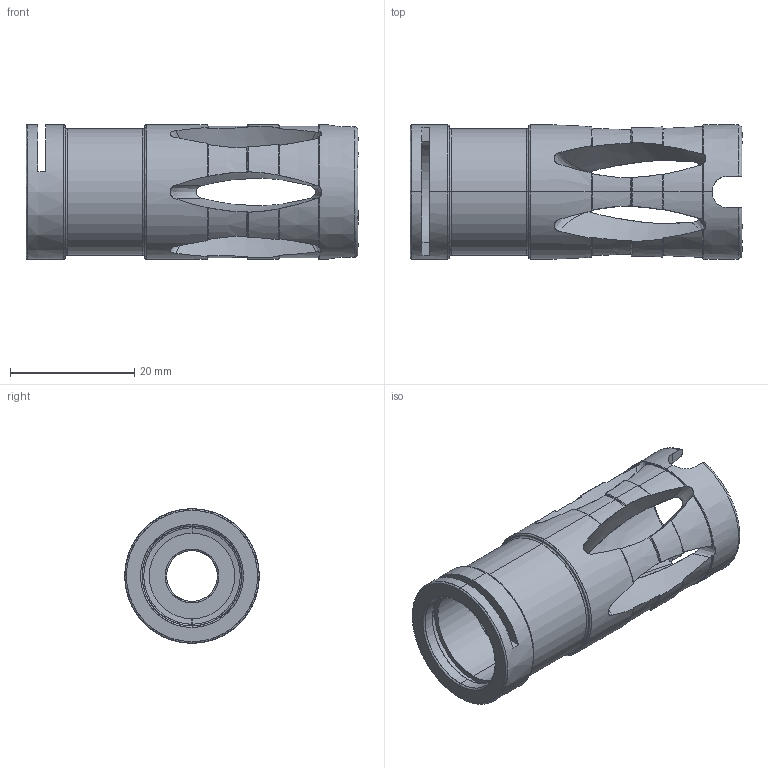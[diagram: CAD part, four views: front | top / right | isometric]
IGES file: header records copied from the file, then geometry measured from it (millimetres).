
Start section: SolidWorks IGES file using analytic representation for surfaces
Global section: file name: C:\Users\owner\Desktop\Hk G-3_91 Flash hidder.IGS; native system: SolidWorks 2008; preprocessor: SolidWorks 2008; author: owner; date: 110714.211244; units: inch
Bounding box: 53.34 x 21.59 x 21.59 mm (x, y, z)
Surface area: 6681.4 mm2 (no closed solid volume)
Topology: 0 solids, 0 shells, 196 faces, 3309 edges, 3309 vertices
Faces by surface type: bspline 143, revolution 53
